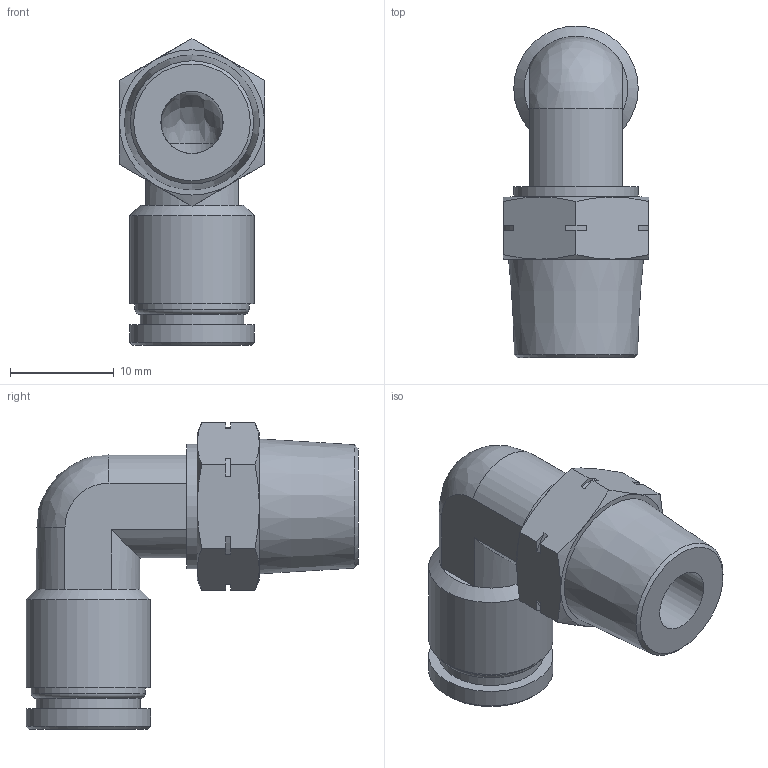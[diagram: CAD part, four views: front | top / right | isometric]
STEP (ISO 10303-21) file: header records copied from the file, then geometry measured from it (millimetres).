
FILE_DESCRIPTION(/* description */ (''),/* implementation_level */ '2;1');
FILE_NAME(/* name */ 'LXH21 0008 N2.stp',/* time_stamp */ '2026-05-01T13:22:17+02:00',/* author */ ('freju'),/* organization */ (''),/* preprocessor_version */ 'ST-DEVELOPER v20.1',/* originating_system */ 'Autodesk Inventor 2026',/* authorisation */ '');
FILE_SCHEMA (('AUTOMOTIVE_DESIGN { 1 0 10303 214 3 1 1 }'));
Length unit declared in the file: millimetre
Products named in the file (1): LXH21 0008 N2
Bounding box: 14 x 32 x 29.58 mm (x, y, z)
Volume: 3300.1 mm3; surface area: 3039.5 mm2
Topology: 1 solids, 1 shells, 67 faces, 162 edges, 101 vertices
Faces by surface type: plane 30, cylinder 18, cone 16, bspline 2, torus 1
Full cylindrical faces by diameter (mm): 6 x2, 8 x1, 10 x1, 11 x1, 12 x3
Entity records: 1991 total; most frequent: CARTESIAN_POINT 411, DIRECTION 332, ORIENTED_EDGE 320, EDGE_CURVE 160, AXIS2_PLACEMENT_3D 130, VERTEX_POINT 101, EDGE_LOOP 75, LINE 72
